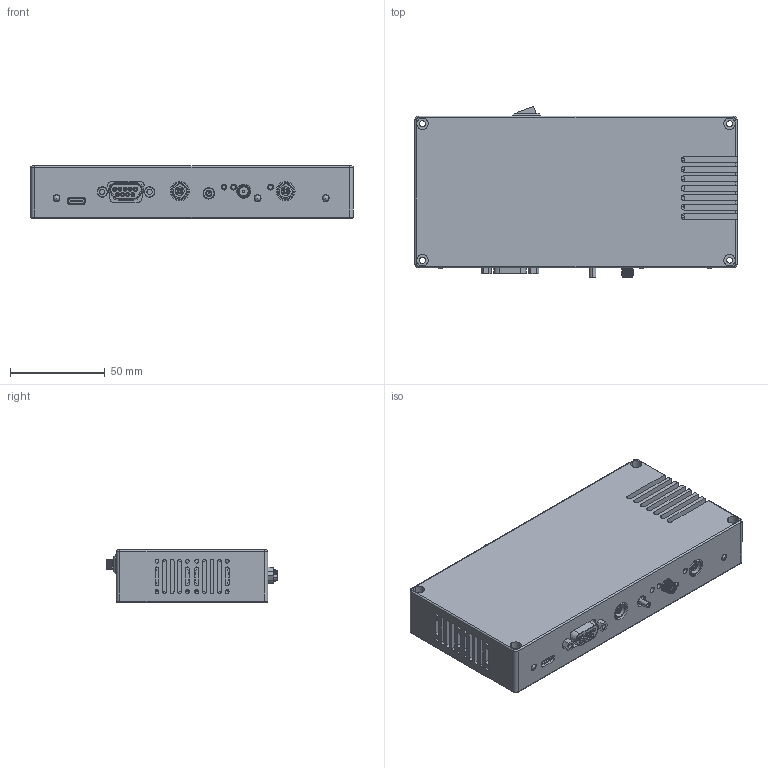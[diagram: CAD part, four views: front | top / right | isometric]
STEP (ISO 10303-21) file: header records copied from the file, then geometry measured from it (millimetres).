
FILE_DESCRIPTION (( 'STEP AP203' ), '1' );
FILE_NAME ('E53.D1S-H9蚾饜.STEP', '2023-10-16T03:19:24', ( 'User' ), ( 'china' ), 'SwSTEP 2.0', 'SolidWorks 2016', '' );
FILE_SCHEMA (( 'CONFIG_CONTROL_DESIGN' ));
Length unit declared in the file: millimetre
Products named in the file (1): E53.D1S-H9蚾饜
Bounding box: 170 x 90.45 x 27.5 mm (x, y, z)
Volume: 146102.3 mm3; surface area: 143114.5 mm2
Topology: 282 solids, 282 shells, 3682 faces, 8328 edges, 5465 vertices
Faces by surface type: plane 2479, cylinder 1060, cone 72, bspline 31, sphere 20, torus 20
Entity records: 104375 total; most frequent: CARTESIAN_POINT 20461, DIRECTION 17496, ORIENTED_EDGE 16544, EDGE_CURVE 8272, LINE 5954, VECTOR 5954, AXIS2_PLACEMENT_3D 5771, VERTEX_POINT 5441
